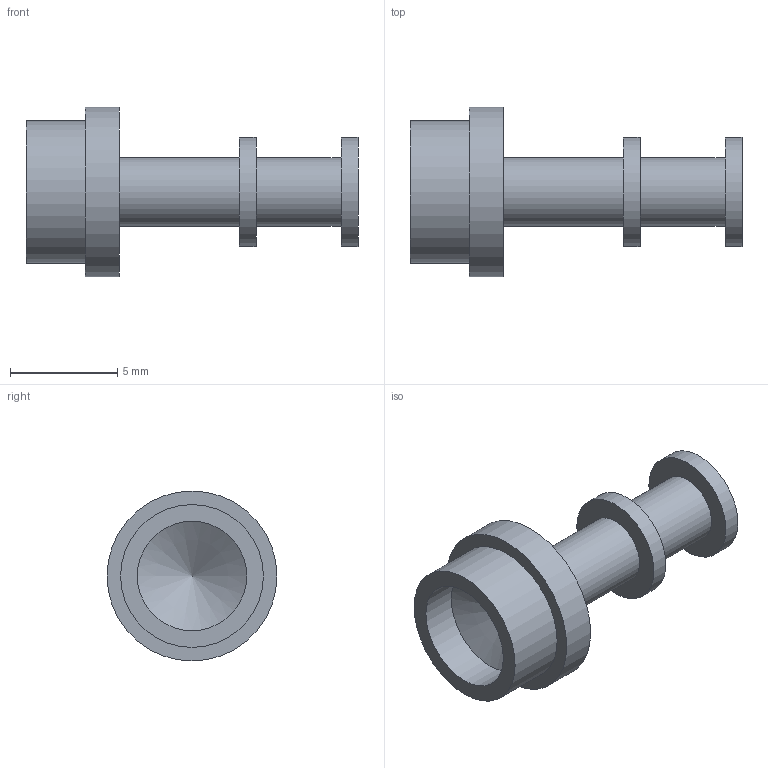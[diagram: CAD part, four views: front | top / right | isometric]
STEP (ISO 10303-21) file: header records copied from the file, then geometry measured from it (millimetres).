
FILE_DESCRIPTION(/* description */ (''),/* implementation_level */ '2;1');
FILE_NAME(/* name */ 'Z:\STEP folder\160-2110-02.ipt.stp',/* time_stamp */ '2016-12-07T10:51:38+00:00',/* author */ ('Paul Karlsons'),/* organization */ (''),/* preprocessor_version */ 'ST-DEVELOPER v15.2',/* originating_system */ 'Autodesk Inventor 2014',/* authorisation */ '');
FILE_SCHEMA (('AUTOMOTIVE_DESIGN { 1 0 10303 214 3 1 1 }'));
Length unit declared in the file: millimetre
Products named in the file (1): 160-2110-02
Bounding box: 15.47 x 7.92 x 7.92 mm (x, y, z)
Volume: 236.6 mm3; surface area: 395.7 mm2
Topology: 1 solids, 1 shells, 15 faces, 23 edges, 15 vertices
Faces by surface type: cylinder 7, plane 7, cone 1
Full cylindrical faces by diameter (mm): 3.175 x2, 5.08 x2, 5.105 x1, 6.655 x1, 7.92 x1
Entity records: 315 total; most frequent: DIRECTION 60, CARTESIAN_POINT 44, AXIS2_PLACEMENT_3D 30, EDGE_LOOP 28, ORIENTED_EDGE 28, FACE_BOUND 16, ADVANCED_FACE 15, CIRCLE 14
